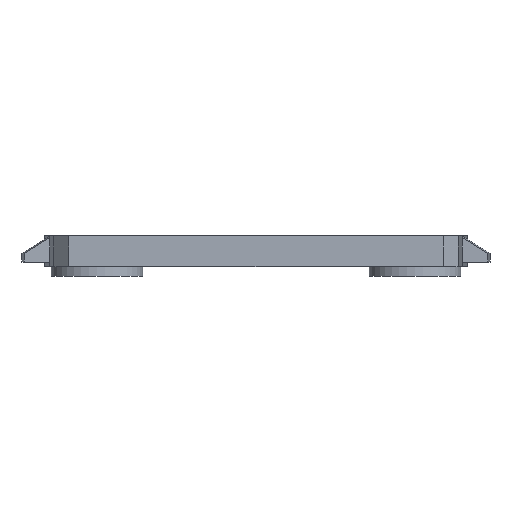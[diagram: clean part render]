
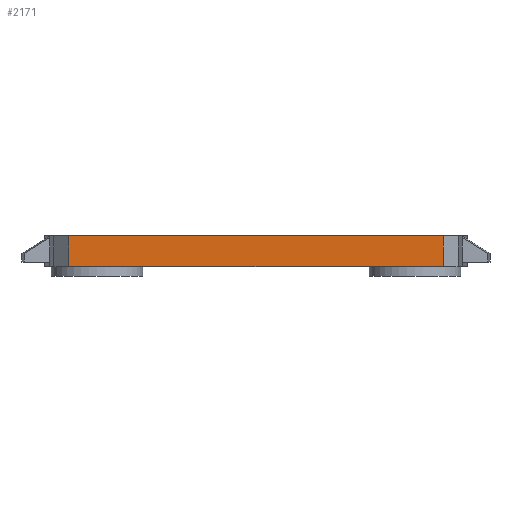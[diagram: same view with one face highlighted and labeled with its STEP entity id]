
A CAD part, front view. The second image highlights one B-rep face of the part: STEP entity #2171.
In plain terms, the highlighted planar face has unit normal (0, -1, 0).
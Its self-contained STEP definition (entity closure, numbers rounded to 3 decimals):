
#44 = PLANE('',#45);
#45 = AXIS2_PLACEMENT_3D('',#46,#47,#48);
#46 = CARTESIAN_POINT('',(0.,4.214,11.85));
#47 = DIRECTION('',(0.,0.,1.));
#48 = DIRECTION('',(1.,0.,-0.));
#100 = PLANE('',#101);
#101 = AXIS2_PLACEMENT_3D('',#102,#103,#104);
#102 = CARTESIAN_POINT('',(0.,4.214,13.6));
#103 = DIRECTION('',(0.,0.,1.));
#104 = DIRECTION('',(1.,0.,-0.));
#540 = VERTEX_POINT('',#541);
#541 = CARTESIAN_POINT('',(-10.61,-28.5,11.85));
#554 = PLANE('',#555);
#555 = AXIS2_PLACEMENT_3D('',#556,#557,#558);
#556 = CARTESIAN_POINT('',(-9.61,-29.5,10.85));
#557 = DIRECTION('',(-0.707,-0.707,0.));
#558 = DIRECTION('',(-0.707,0.707,0.));
#565 = EDGE_CURVE('',#540,#566,#568,.T.);
#566 = VERTEX_POINT('',#567);
#567 = CARTESIAN_POINT('',(10.61,-28.5,11.85));
#568 = SURFACE_CURVE('',#569,(#573,#580),.PCURVE_S1.);
#569 = LINE('',#570,#571);
#570 = CARTESIAN_POINT('',(-11.409,-28.5,11.85));
#571 = VECTOR('',#572,1.);
#572 = DIRECTION('',(1.,0.,0.));
#573 = PCURVE('',#44,#574);
#574 = DEFINITIONAL_REPRESENTATION('',(#575),#579);
#575 = LINE('',#576,#577);
#576 = CARTESIAN_POINT('',(-11.409,-32.714));
#577 = VECTOR('',#578,1.);
#578 = DIRECTION('',(1.,0.));
#579 = ( GEOMETRIC_REPRESENTATION_CONTEXT(2) 
PARAMETRIC_REPRESENTATION_CONTEXT() REPRESENTATION_CONTEXT('2D SPACE',''
  ) );
#580 = PCURVE('',#581,#586);
#581 = PLANE('',#582);
#582 = AXIS2_PLACEMENT_3D('',#583,#584,#585);
#583 = CARTESIAN_POINT('',(-11.409,-28.5,11.85));
#584 = DIRECTION('',(0.,1.,0.));
#585 = DIRECTION('',(1.,0.,0.));
#586 = DEFINITIONAL_REPRESENTATION('',(#587),#591);
#587 = LINE('',#588,#589);
#588 = CARTESIAN_POINT('',(0.,0.));
#589 = VECTOR('',#590,1.);
#590 = DIRECTION('',(1.,0.));
#591 = ( GEOMETRIC_REPRESENTATION_CONTEXT(2) 
PARAMETRIC_REPRESENTATION_CONTEXT() REPRESENTATION_CONTEXT('2D SPACE',''
  ) );
#608 = PLANE('',#609);
#609 = AXIS2_PLACEMENT_3D('',#610,#611,#612);
#610 = CARTESIAN_POINT('',(9.61,-29.5,10.85));
#611 = DIRECTION('',(-0.707,0.707,0.));
#612 = DIRECTION('',(0.707,0.707,0.));
#1464 = VERTEX_POINT('',#1465);
#1465 = CARTESIAN_POINT('',(-10.61,-28.5,13.6));
#1484 = EDGE_CURVE('',#1464,#1485,#1487,.T.);
#1485 = VERTEX_POINT('',#1486);
#1486 = CARTESIAN_POINT('',(10.61,-28.5,13.6));
#1487 = SURFACE_CURVE('',#1488,(#1492,#1499),.PCURVE_S1.);
#1488 = LINE('',#1489,#1490);
#1489 = CARTESIAN_POINT('',(-11.409,-28.5,13.6));
#1490 = VECTOR('',#1491,1.);
#1491 = DIRECTION('',(1.,0.,0.));
#1492 = PCURVE('',#100,#1493);
#1493 = DEFINITIONAL_REPRESENTATION('',(#1494),#1498);
#1494 = LINE('',#1495,#1496);
#1495 = CARTESIAN_POINT('',(-11.409,-32.714));
#1496 = VECTOR('',#1497,1.);
#1497 = DIRECTION('',(1.,0.));
#1498 = ( GEOMETRIC_REPRESENTATION_CONTEXT(2) 
PARAMETRIC_REPRESENTATION_CONTEXT() REPRESENTATION_CONTEXT('2D SPACE',''
  ) );
#1499 = PCURVE('',#581,#1500);
#1500 = DEFINITIONAL_REPRESENTATION('',(#1501),#1505);
#1501 = LINE('',#1502,#1503);
#1502 = CARTESIAN_POINT('',(0.,-1.75));
#1503 = VECTOR('',#1504,1.);
#1504 = DIRECTION('',(1.,0.));
#1505 = ( GEOMETRIC_REPRESENTATION_CONTEXT(2) 
PARAMETRIC_REPRESENTATION_CONTEXT() REPRESENTATION_CONTEXT('2D SPACE',''
  ) );
#2152 = EDGE_CURVE('',#566,#1485,#2153,.T.);
#2153 = SURFACE_CURVE('',#2154,(#2158,#2164),.PCURVE_S1.);
#2154 = LINE('',#2155,#2156);
#2155 = CARTESIAN_POINT('',(10.61,-28.5,11.35));
#2156 = VECTOR('',#2157,1.);
#2157 = DIRECTION('',(0.,-0.,1.));
#2158 = PCURVE('',#608,#2159);
#2159 = DEFINITIONAL_REPRESENTATION('',(#2160),#2163);
#2160 = B_SPLINE_CURVE_WITH_KNOTS('',1,(#2161,#2162),.UNSPECIFIED.,.F.,
  .F.,(2,2),(0.5,2.25),.PIECEWISE_BEZIER_KNOTS.);
#2161 = CARTESIAN_POINT('',(1.414,-1.));
#2162 = CARTESIAN_POINT('',(1.414,-2.75));
#2163 = ( GEOMETRIC_REPRESENTATION_CONTEXT(2) 
PARAMETRIC_REPRESENTATION_CONTEXT() REPRESENTATION_CONTEXT('2D SPACE',''
  ) );
#2164 = PCURVE('',#581,#2165);
#2165 = DEFINITIONAL_REPRESENTATION('',(#2166),#2169);
#2166 = B_SPLINE_CURVE_WITH_KNOTS('',1,(#2167,#2168),.UNSPECIFIED.,.F.,
  .F.,(2,2),(0.5,2.25),.PIECEWISE_BEZIER_KNOTS.);
#2167 = CARTESIAN_POINT('',(22.019,0.));
#2168 = CARTESIAN_POINT('',(22.019,-1.75));
#2169 = ( GEOMETRIC_REPRESENTATION_CONTEXT(2) 
PARAMETRIC_REPRESENTATION_CONTEXT() REPRESENTATION_CONTEXT('2D SPACE',''
  ) );
#2171 = ADVANCED_FACE('',(#2172),#581,.F.);
#2172 = FACE_BOUND('',#2173,.F.);
#2173 = EDGE_LOOP('',(#2174,#2175,#2194,#2195));
#2174 = ORIENTED_EDGE('',*,*,#565,.F.);
#2175 = ORIENTED_EDGE('',*,*,#2176,.T.);
#2176 = EDGE_CURVE('',#540,#1464,#2177,.T.);
#2177 = SURFACE_CURVE('',#2178,(#2182,#2188),.PCURVE_S1.);
#2178 = LINE('',#2179,#2180);
#2179 = CARTESIAN_POINT('',(-10.61,-28.5,11.35));
#2180 = VECTOR('',#2181,1.);
#2181 = DIRECTION('',(0.,-0.,1.));
#2182 = PCURVE('',#581,#2183);
#2183 = DEFINITIONAL_REPRESENTATION('',(#2184),#2187);
#2184 = B_SPLINE_CURVE_WITH_KNOTS('',1,(#2185,#2186),.UNSPECIFIED.,.F.,
  .F.,(2,2),(0.5,2.25),.PIECEWISE_BEZIER_KNOTS.);
#2185 = CARTESIAN_POINT('',(0.799,0.));
#2186 = CARTESIAN_POINT('',(0.799,-1.75));
#2187 = ( GEOMETRIC_REPRESENTATION_CONTEXT(2) 
PARAMETRIC_REPRESENTATION_CONTEXT() REPRESENTATION_CONTEXT('2D SPACE',''
  ) );
#2188 = PCURVE('',#554,#2189);
#2189 = DEFINITIONAL_REPRESENTATION('',(#2190),#2193);
#2190 = B_SPLINE_CURVE_WITH_KNOTS('',1,(#2191,#2192),.UNSPECIFIED.,.F.,
  .F.,(2,2),(0.5,2.25),.PIECEWISE_BEZIER_KNOTS.);
#2191 = CARTESIAN_POINT('',(1.414,-1.));
#2192 = CARTESIAN_POINT('',(1.414,-2.75));
#2193 = ( GEOMETRIC_REPRESENTATION_CONTEXT(2) 
PARAMETRIC_REPRESENTATION_CONTEXT() REPRESENTATION_CONTEXT('2D SPACE',''
  ) );
#2194 = ORIENTED_EDGE('',*,*,#1484,.T.);
#2195 = ORIENTED_EDGE('',*,*,#2152,.F.);
